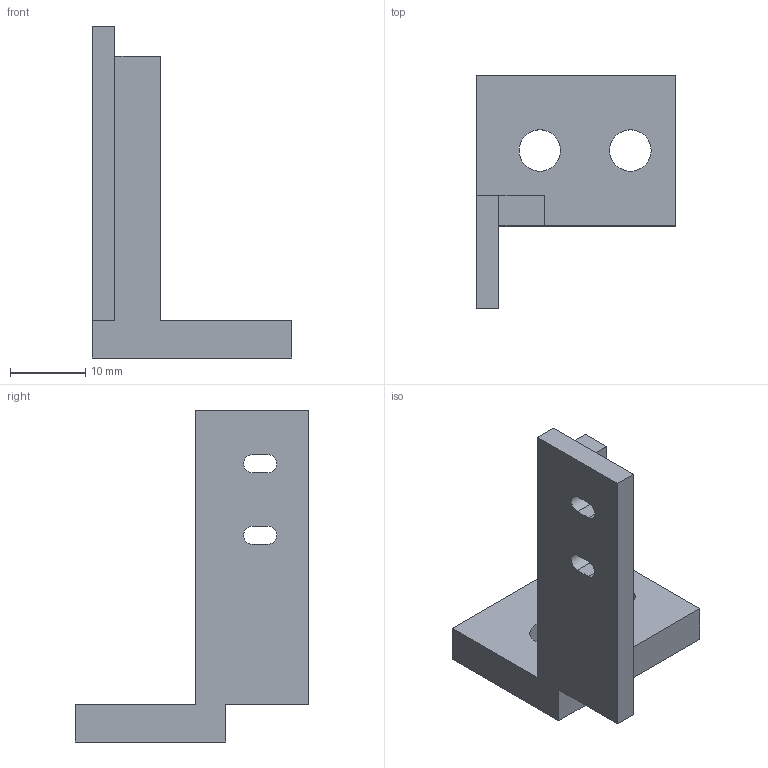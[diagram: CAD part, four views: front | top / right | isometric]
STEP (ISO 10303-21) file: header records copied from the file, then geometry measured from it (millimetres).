
FILE_DESCRIPTION(('Open CASCADE Model'),'2;1');
FILE_NAME('Open CASCADE Shape Model','2026-10-23T08:22:13',('Author'),( 'Open CASCADE'),'Open CASCADE STEP processor 7.9','Open CASCADE 7.9' ,'Unknown');
FILE_SCHEMA(('AUTOMOTIVE_DESIGN { 1 0 10303 214 1 1 1 1 }'));
Length unit declared in the file: millimetre
Products named in the file (1): Open CASCADE STEP translator 7.9 23
Bounding box: 26.42 x 31 x 44 mm (x, y, z)
Volume: 4944 mm3; surface area: 3521 mm2
Topology: 1 solids, 1 shells, 23 faces, 63 edges, 42 vertices
Faces by surface type: plane 17, cylinder 6
Full cylindrical faces by diameter (mm): 5.5 x2
Entity records: 1574 total; most frequent: CARTESIAN_POINT 255, DIRECTION 249, LINE 165, VECTOR 165, ORIENTED_EDGE 126, PCURVE 126, DEFINITIONAL_REPRESENTATION 126, EDGE_CURVE 63
